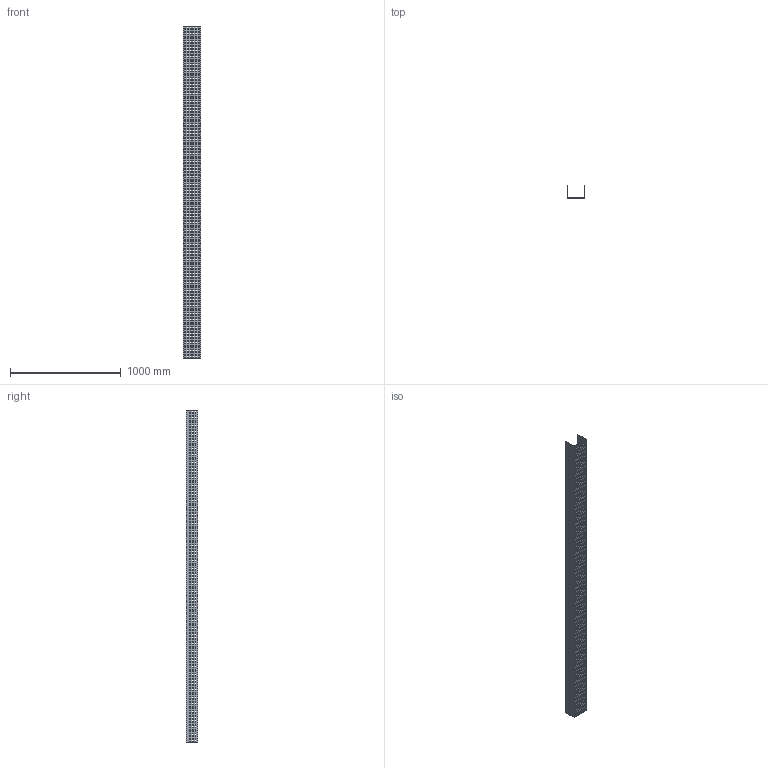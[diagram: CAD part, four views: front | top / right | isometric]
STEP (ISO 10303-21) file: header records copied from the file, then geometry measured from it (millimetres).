
FILE_DESCRIPTION (( 'STEP AP214' ), '1' );
FILE_NAME ('01B3D150.step', '2025-02-21T10:00:06', ( '' ), ( '' ), 'SwSTEP 2.0', 'SolidWorks 2023', '' );
FILE_SCHEMA (( 'AUTOMOTIVE_DESIGN' ));
Products named in the file (1): 01B3D150
Bounding box: 154 x 104 x 3000 mm (x, y, z)
Volume: 3198300 mm3; surface area: 2044621 mm2
Topology: 1 solids, 1 shells, 3466 faces, 10392 edges, 6928 vertices
Faces by surface type: plane 3466
Entity records: 117815 total; most frequent: CARTESIAN_POINT 20787, ORIENTED_EDGE 20784, DIRECTION 17326, VECTOR 10392, EDGE_CURVE 10392, LINE 10392, VERTEX_POINT 6928, EDGE_LOOP 5194
